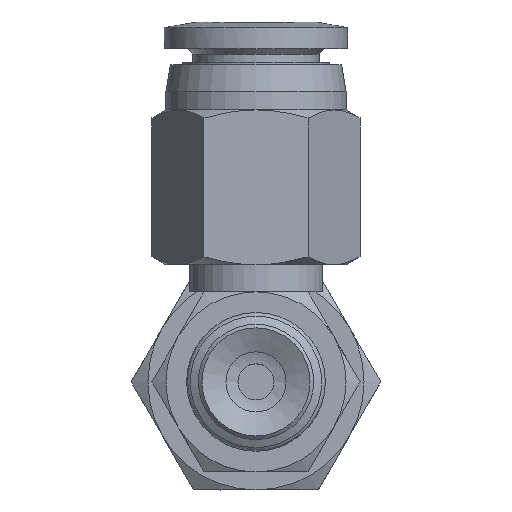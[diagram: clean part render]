
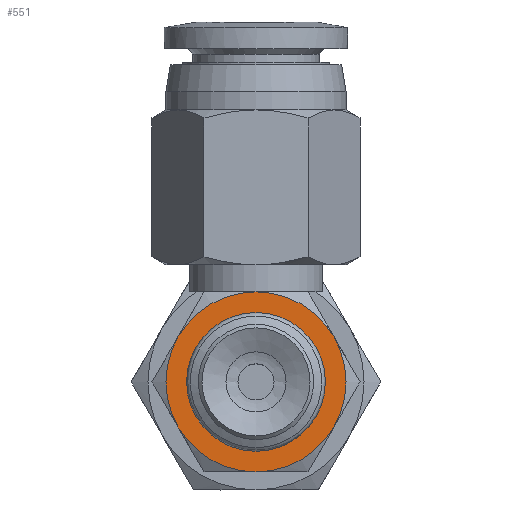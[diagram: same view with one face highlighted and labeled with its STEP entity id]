
A CAD part, front view. The second image highlights one B-rep face of the part: STEP entity #551.
In plain terms, the highlighted planar face has unit normal (0, -1, 0).
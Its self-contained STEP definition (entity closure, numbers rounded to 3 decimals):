
#551=ADVANCED_FACE('',(#848,#849),#850,.T.);
#848=FACE_BOUND('',#1256,.T.);
#849=FACE_OUTER_BOUND('',#1257,.T.);
#850=PLANE('',#1258);
#1256=EDGE_LOOP('',(#2347));
#1257=EDGE_LOOP('',(#2348,#2349,#2350,#2351,#2352,#2353));
#1258=AXIS2_PLACEMENT_3D('',#2354,#2355,#2356);
#2347=ORIENTED_EDGE('',*,*,#2923,.F.);
#2348=ORIENTED_EDGE('',*,*,#2878,.T.);
#2349=ORIENTED_EDGE('',*,*,#2869,.T.);
#2350=ORIENTED_EDGE('',*,*,#2922,.T.);
#2351=ORIENTED_EDGE('',*,*,#2886,.T.);
#2352=ORIENTED_EDGE('',*,*,#2853,.T.);
#2353=ORIENTED_EDGE('',*,*,#2875,.T.);
#2354=CARTESIAN_POINT('',(2.0,0.,0.0));
#2355=DIRECTION('',(0.0,-1.0,0.0));
#2356=DIRECTION('',(0.0,0.0,-1.0));
#2853=EDGE_CURVE('',#3200,#3214,#3216,.T.);
#2869=EDGE_CURVE('',#3232,#3243,#3245,.T.);
#2875=EDGE_CURVE('',#3214,#3246,#3255,.T.);
#2878=EDGE_CURVE('',#3246,#3232,#3258,.T.);
#2886=EDGE_CURVE('',#3217,#3200,#3270,.T.);
#2922=EDGE_CURVE('',#3243,#3217,#3333,.T.);
#2923=EDGE_CURVE('',#3334,#3334,#3335,.T.);
#3200=VERTEX_POINT('',#3982);
#3214=VERTEX_POINT('',#4008);
#3216=CIRCLE('',#4012,5.0);
#3217=VERTEX_POINT('',#4013);
#3232=VERTEX_POINT('',#4039);
#3243=VERTEX_POINT('',#4060);
#3245=CIRCLE('',#4064,5.0);
#3246=VERTEX_POINT('',#4065);
#3255=CIRCLE('',#4083,5.0);
#3258=CIRCLE('',#4090,5.0);
#3270=CIRCLE('',#4120,5.0);
#3333=CIRCLE('',#4245,5.0);
#3334=VERTEX_POINT('',#4246);
#3335=CIRCLE('',#4247,2.0);
#3982=CARTESIAN_POINT('',(-4.33,0.,2.5));
#4008=CARTESIAN_POINT('',(-4.33,0.,-2.5));
#4012=AXIS2_PLACEMENT_3D('',#4911,#4912,#4913);
#4013=CARTESIAN_POINT('',(0.0,0.,5.0));
#4039=CARTESIAN_POINT('',(4.33,0.,-2.5));
#4060=CARTESIAN_POINT('',(4.33,0.,2.5));
#4064=AXIS2_PLACEMENT_3D('',#4923,#4924,#4925);
#4065=CARTESIAN_POINT('',(0.0,0.,-5.0));
#4083=AXIS2_PLACEMENT_3D('',#4927,#4928,#4929);
#4090=AXIS2_PLACEMENT_3D('',#4930,#4931,#4932);
#4120=AXIS2_PLACEMENT_3D('',#4942,#4943,#4944);
#4245=AXIS2_PLACEMENT_3D('',#5006,#5007,#5008);
#4246=CARTESIAN_POINT('',(0.0,0.,-2.0));
#4247=AXIS2_PLACEMENT_3D('',#5009,#5010,#5011);
#4911=CARTESIAN_POINT('',(0.0,0.,0.0));
#4912=DIRECTION('',(0.0,-1.0,0.0));
#4913=DIRECTION('',(0.0,0.0,-1.0));
#4923=CARTESIAN_POINT('',(0.0,0.,0.0));
#4924=DIRECTION('',(0.0,-1.0,0.0));
#4925=DIRECTION('',(0.0,0.0,-1.0));
#4927=CARTESIAN_POINT('',(0.0,0.,0.0));
#4928=DIRECTION('',(0.0,-1.0,0.0));
#4929=DIRECTION('',(0.0,0.0,-1.0));
#4930=CARTESIAN_POINT('',(0.0,0.,0.0));
#4931=DIRECTION('',(0.0,-1.0,0.0));
#4932=DIRECTION('',(0.0,0.0,-1.0));
#4942=CARTESIAN_POINT('',(0.0,0.,0.0));
#4943=DIRECTION('',(0.0,-1.0,0.0));
#4944=DIRECTION('',(0.0,0.0,-1.0));
#5006=CARTESIAN_POINT('',(0.0,0.,0.0));
#5007=DIRECTION('',(0.0,-1.0,0.0));
#5008=DIRECTION('',(0.0,0.0,-1.0));
#5009=CARTESIAN_POINT('',(0.0,0.,0.0));
#5010=DIRECTION('',(0.0,-1.0,0.0));
#5011=DIRECTION('',(0.0,0.0,-1.0));
